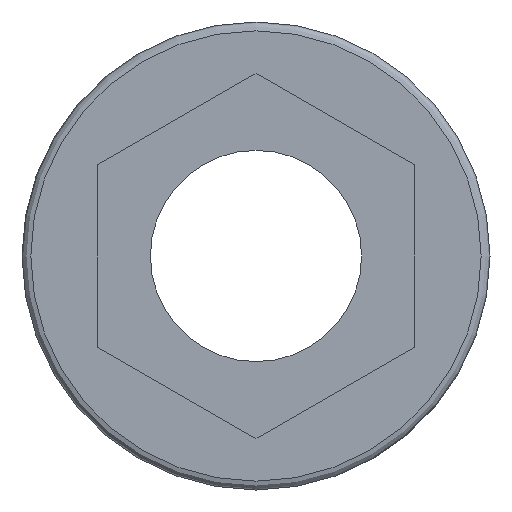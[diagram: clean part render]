
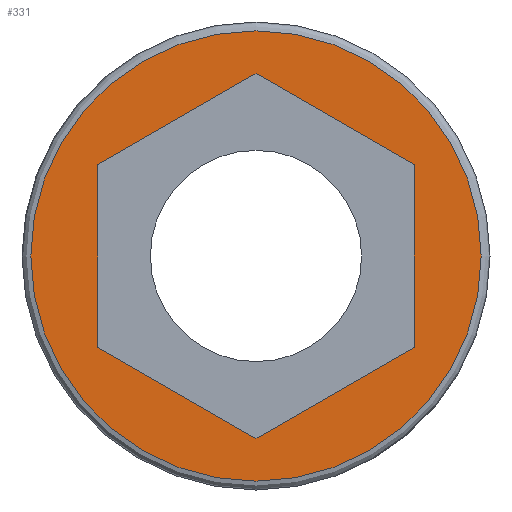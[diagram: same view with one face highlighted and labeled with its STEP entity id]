
A CAD part, front view. The second image highlights one B-rep face of the part: STEP entity #331.
In plain terms, the highlighted planar face has unit normal (0, -1, 0).
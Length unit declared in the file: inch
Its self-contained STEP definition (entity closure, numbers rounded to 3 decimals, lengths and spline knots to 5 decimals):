
#17=FACE_BOUND('',#108,.T.);
#22=PLANE('',#378);
#34=LINE('',#550,#57);
#35=LINE('',#552,#58);
#36=LINE('',#554,#59);
#37=LINE('',#556,#60);
#38=LINE('',#558,#61);
#39=LINE('',#559,#62);
#57=VECTOR('',#446,0.3937);
#58=VECTOR('',#447,0.3937);
#59=VECTOR('',#448,0.3937);
#60=VECTOR('',#449,0.3937);
#61=VECTOR('',#450,0.3937);
#62=VECTOR('',#451,0.3937);
#87=FACE_OUTER_BOUND('',#107,.T.);
#107=EDGE_LOOP('',(#253,#254));
#108=EDGE_LOOP('',(#255,#256,#257,#258,#259,#260));
#132=CIRCLE('',#370,0.178);
#136=CIRCLE('',#374,0.178);
#155=VERTEX_POINT('',#532);
#156=VERTEX_POINT('',#533);
#161=VERTEX_POINT('',#548);
#162=VERTEX_POINT('',#549);
#163=VERTEX_POINT('',#551);
#164=VERTEX_POINT('',#553);
#165=VERTEX_POINT('',#555);
#166=VERTEX_POINT('',#557);
#190=EDGE_CURVE('',#155,#156,#132,.T.);
#194=EDGE_CURVE('',#156,#155,#136,.T.);
#198=EDGE_CURVE('',#161,#162,#34,.T.);
#199=EDGE_CURVE('',#162,#163,#35,.T.);
#200=EDGE_CURVE('',#163,#164,#36,.T.);
#201=EDGE_CURVE('',#164,#165,#37,.T.);
#202=EDGE_CURVE('',#165,#166,#38,.T.);
#203=EDGE_CURVE('',#166,#161,#39,.T.);
#253=ORIENTED_EDGE('',*,*,#190,.F.);
#254=ORIENTED_EDGE('',*,*,#194,.F.);
#255=ORIENTED_EDGE('',*,*,#198,.T.);
#256=ORIENTED_EDGE('',*,*,#199,.T.);
#257=ORIENTED_EDGE('',*,*,#200,.T.);
#258=ORIENTED_EDGE('',*,*,#201,.T.);
#259=ORIENTED_EDGE('',*,*,#202,.T.);
#260=ORIENTED_EDGE('',*,*,#203,.T.);
#331=ADVANCED_FACE('',(#87,#17),#22,.T.);
#370=AXIS2_PLACEMENT_3D('',#534,#427,#428);
#374=AXIS2_PLACEMENT_3D('',#540,#435,#436);
#378=AXIS2_PLACEMENT_3D('',#547,#444,#445);
#427=DIRECTION('center_axis',(0.,1.,0.));
#428=DIRECTION('ref_axis',(0.,0.,1.));
#435=DIRECTION('center_axis',(0.,1.,0.));
#436=DIRECTION('ref_axis',(0.,0.,1.));
#444=DIRECTION('center_axis',(0.,-1.,0.));
#445=DIRECTION('ref_axis',(0.,0.,-1.));
#446=DIRECTION('',(0.866,0.,-0.5));
#447=DIRECTION('',(0.,0.,-1.));
#448=DIRECTION('',(-0.866,0.,-0.5));
#449=DIRECTION('',(-0.866,0.,0.5));
#450=DIRECTION('',(0.,0.,1.));
#451=DIRECTION('',(0.866,0.,0.5));
#532=CARTESIAN_POINT('',(0.,0.,-0.178));
#533=CARTESIAN_POINT('',(0.,0.,0.178));
#534=CARTESIAN_POINT('Origin',(0.,0.,0.));
#540=CARTESIAN_POINT('Origin',(0.,0.,0.));
#547=CARTESIAN_POINT('Origin',(0.,0.,-0.0835));
#548=CARTESIAN_POINT('',(0.,0.,0.14434));
#549=CARTESIAN_POINT('',(0.125,0.,0.07217));
#550=CARTESIAN_POINT('',(0.04933,0.,0.11586));
#551=CARTESIAN_POINT('',(0.125,0.,-0.07217));
#552=CARTESIAN_POINT('',(0.125,0.,-0.00567));
#553=CARTESIAN_POINT('',(0.,0.,-0.14434));
#554=CARTESIAN_POINT('',(0.07567,0.,-0.10065));
#555=CARTESIAN_POINT('',(-0.125,0.,-0.07217));
#556=CARTESIAN_POINT('',(-0.01317,0.,-0.13673));
#557=CARTESIAN_POINT('',(-0.125,0.,0.07217));
#558=CARTESIAN_POINT('',(-0.125,0.,-0.07783));
#559=CARTESIAN_POINT('',(-0.11183,0.,0.07977));
